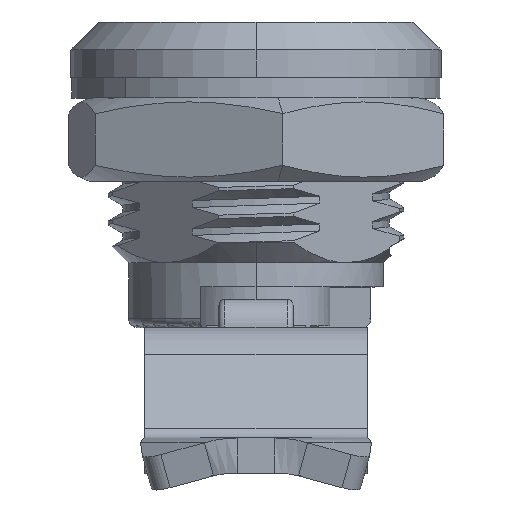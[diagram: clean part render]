
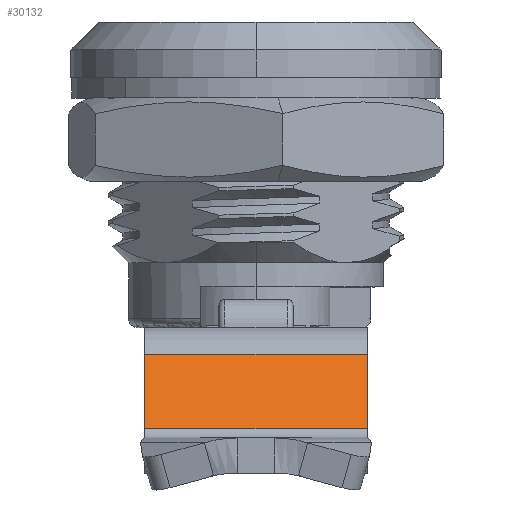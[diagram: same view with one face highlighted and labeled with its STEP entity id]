
A CAD part, top view. The second image highlights one B-rep face of the part: STEP entity #30132.
In plain terms, the highlighted planar face has unit normal (0, 0.5, 0.866) as drawn and (0.866, 0.5, 0) by its records, which use the part's own axes.
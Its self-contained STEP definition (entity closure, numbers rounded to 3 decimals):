
#4 = CARTESIAN_POINT ( 'NONE',  ( 15.151, -5.503, 0. ) ) ;
#899 = CARTESIAN_POINT ( 'NONE',  ( 20.665, -15.053, 6. ) ) ;
#1156 = LINE ( 'NONE', #6147, #8923 ) ;
#3703 = EDGE_CURVE ( 'NONE', #9149, #26250, #10028, .T. ) ;
#5504 = VECTOR ( 'NONE', #13771, 1000. ) ;
#5669 = DIRECTION ( 'NONE',  ( 0., 0., -1. ) ) ;
#5900 = CARTESIAN_POINT ( 'NONE',  ( 15.151, -5.503, 6. ) ) ;
#6147 = CARTESIAN_POINT ( 'NONE',  ( 6.64, 9.239, -6. ) ) ;
#7933 = CARTESIAN_POINT ( 'NONE',  ( 12.811, -1.45, 0. ) ) ;
#8923 = VECTOR ( 'NONE', #15965, 1000. ) ;
#9149 = VERTEX_POINT ( 'NONE', #27420 ) ;
#9446 = ORIENTED_EDGE ( 'NONE', *, *, #26780, .F. ) ;
#9829 = DIRECTION ( 'NONE',  ( 0., 0., 1. ) ) ;
#10028 = LINE ( 'NONE', #7933, #23685 ) ;
#10965 = DIRECTION ( 'NONE',  ( 0.866, 0.5, 0. ) ) ;
#11432 = FACE_OUTER_BOUND ( 'NONE', #26506, .T. ) ;
#13374 = EDGE_CURVE ( 'NONE', #17694, #26250, #1156, .T. ) ;
#13771 = DIRECTION ( 'NONE',  ( 0.5, -0.866, 0. ) ) ;
#14695 = AXIS2_PLACEMENT_3D ( 'NONE', #18661, #10965, #26089 ) ;
#15264 = CARTESIAN_POINT ( 'NONE',  ( 15.151, -5.503, -6. ) ) ;
#15561 = LINE ( 'NONE', #899, #5504 ) ;
#15965 = DIRECTION ( 'NONE',  ( -0.5, 0.866, 0. ) ) ;
#17694 = VERTEX_POINT ( 'NONE', #15264 ) ;
#18661 = CARTESIAN_POINT ( 'NONE',  ( 6.64, 9.239, 0. ) ) ;
#20050 = ORIENTED_EDGE ( 'NONE', *, *, #3703, .F. ) ;
#20160 = VECTOR ( 'NONE', #9829, 1000. ) ;
#20401 = EDGE_CURVE ( 'NONE', #9149, #22450, #15561, .T. ) ;
#22450 = VERTEX_POINT ( 'NONE', #5900 ) ;
#23685 = VECTOR ( 'NONE', #5669, 1000. ) ;
#26089 = DIRECTION ( 'NONE',  ( 0., 0., 1. ) ) ;
#26245 = PLANE ( 'NONE',  #14695 ) ;
#26250 = VERTEX_POINT ( 'NONE', #27595 ) ;
#26503 = ORIENTED_EDGE ( 'NONE', *, *, #13374, .T. ) ;
#26506 = EDGE_LOOP ( 'NONE', ( #9446, #26503, #20050, #29275 ) ) ;
#26780 = EDGE_CURVE ( 'NONE', #17694, #22450, #29131, .T. ) ;
#27420 = CARTESIAN_POINT ( 'NONE',  ( 12.811, -1.45, 6. ) ) ;
#27595 = CARTESIAN_POINT ( 'NONE',  ( 12.811, -1.45, -6. ) ) ;
#29131 = LINE ( 'NONE', #4, #20160 ) ;
#29275 = ORIENTED_EDGE ( 'NONE', *, *, #20401, .T. ) ;
#30132 = ADVANCED_FACE ( 'NONE', ( #11432 ), #26245, .T. ) ;
